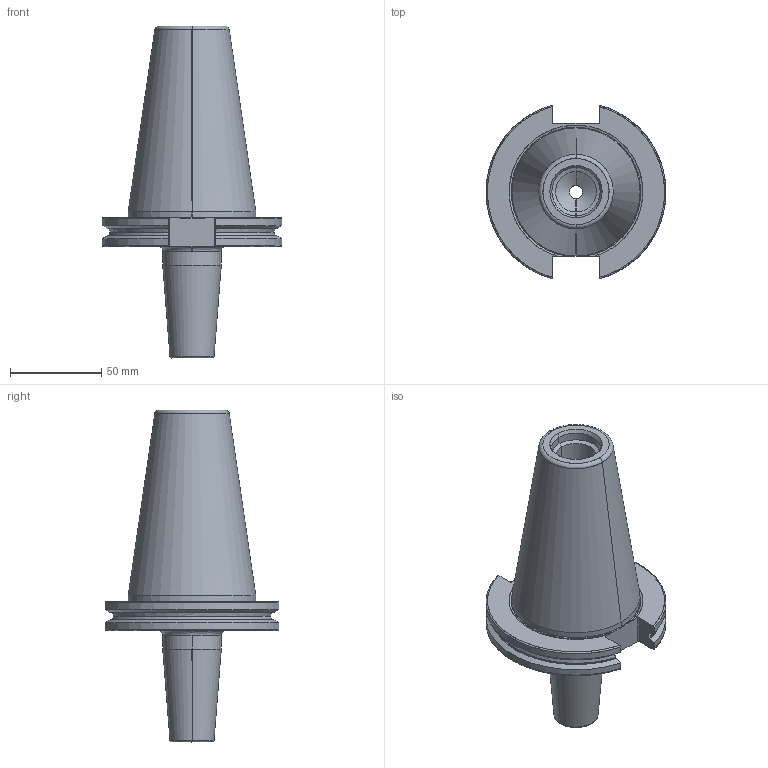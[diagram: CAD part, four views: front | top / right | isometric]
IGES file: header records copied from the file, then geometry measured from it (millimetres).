
Start section: SolidWorks IGES file using analytic representation for surfaces
Global section: file name: C:\Working Directory\Web Models\C6N3-0012\C6N3-0012.IGS; native system: SolidWorks 2020; preprocessor: SolidWorks 2020; author: kthao; date: 200114.162453; units: inch
Bounding box: 98.36 x 94.95 x 181.6 mm (x, y, z)
Surface area: 51122.6 mm2 (no closed solid volume)
Topology: 0 solids, 0 shells, 93 faces, 1371 edges, 1369 vertices
Faces by surface type: revolution 53, bspline 40
